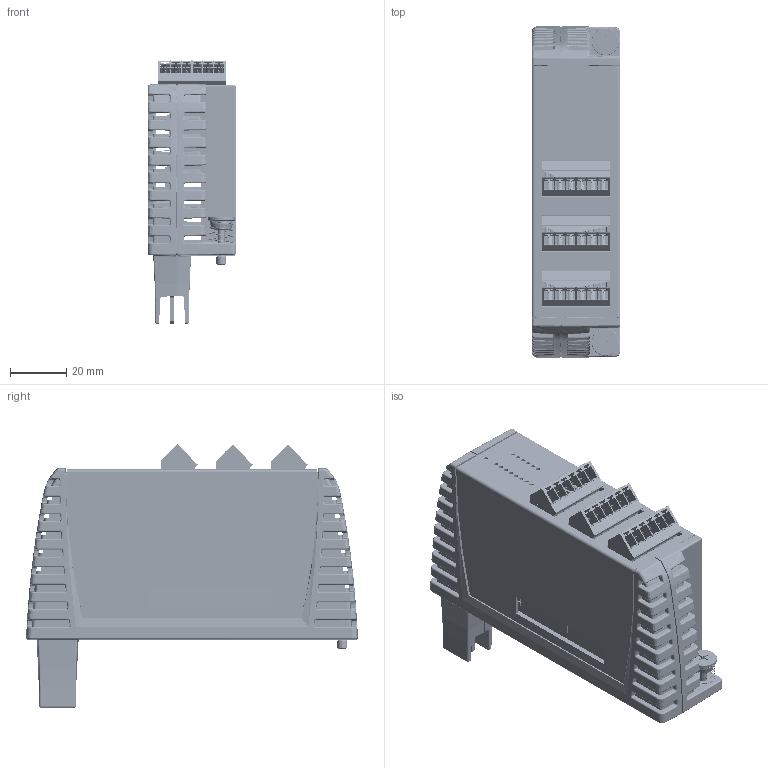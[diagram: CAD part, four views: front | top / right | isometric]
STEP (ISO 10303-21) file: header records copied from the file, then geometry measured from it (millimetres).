
FILE_DESCRIPTION (( 'STEP AP203' ), '1' );
FILE_NAME ('GRAPHITE ANALOG MODULE FINAL_ASSEMBLY-DIO14R.STEP', '2013-09-04T18:45:09', ( 'Network Administration' ), ( 'Red Lion Controls Inc.' ), 'SwSTEP 2.0', 'SolidWorks 2013', '' );
FILE_SCHEMA (( 'CONFIG_CONTROL_DESIGN' ));
Length unit declared in the file: millimetre
Products named in the file (12): McMC 90692A086; McMC 91771A143_91771A143; PEM SCBR-632-8 ZI; DIO14R; SHORTING JUMPER; CA503000_MODULE CASE, LEFT HALF; PEM F-632-1; CA503100_MODULE CASE, RIGHT HALF; 92010A112; CV514900_MODULE SHEET METAL WRAP_CV115098 DIO14 MODULE WRAP; GRAPHITE ANALOG MODULE FINAL_ASSEMBLY-DIO14R; McMC 90402A106
Assembly tree (17 placements, depth 2):
  GRAPHITE ANALOG MODULE FINAL_ASSEMBLY-DIO14R
    CA503000_MODULE CASE, LEFT HALF
    CA503100_MODULE CASE, RIGHT HALF
    CV514900_MODULE SHEET METAL WRAP_CV115098 DIO14 MODULE WRAP
    McMC 90402A106  x2
    McMC 90692A086  x4
    McMC 91771A143_91771A143
    PEM SCBR-632-8 ZI  x2
    DIO14R
    SHORTING JUMPER
    PEM F-632-1  x2
    92010A112
Bounding box: 31.5 x 117.84 x 93.43 mm (x, y, z)
Volume: 41494 mm3; surface area: 87752.6 mm2
Topology: 18 solids, 2597 shells, 6923 faces, 22495 edges, 18034 vertices
Faces by surface type: plane 3317, bspline 1891, cylinder 1345, cone 353, torus 17
Entity records: 330329 total; most frequent: CARTESIAN_POINT 159082, ORIENTED_EDGE 31716, DIRECTION 28815, EDGE_CURVE 21645, VERTEX_POINT 17564, LINE 13931, VECTOR 13931, AXIS2_PLACEMENT_3D 7442
